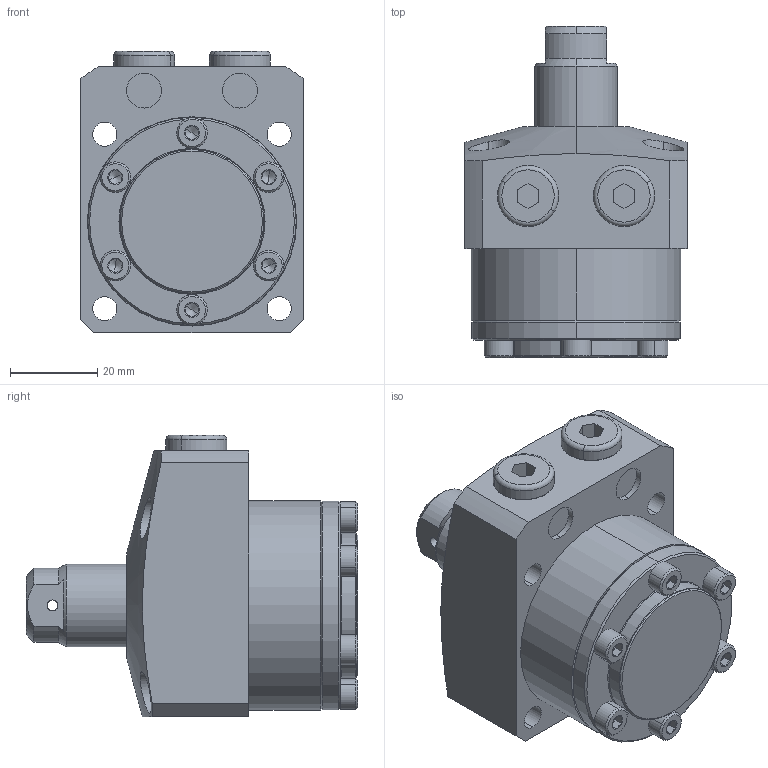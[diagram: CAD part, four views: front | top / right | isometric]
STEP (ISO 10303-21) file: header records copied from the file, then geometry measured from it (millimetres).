
FILE_DESCRIPTION (( 'STEP AP203' ), '1' );
FILE_NAME ('680480-CB-015.STEP', '2019-11-06T04:37:47', ( '微软用户' ), ( '微软中国' ), 'SwSTEP 2.0', 'SolidWorks 2014', '' );
FILE_SCHEMA (( 'CONFIG_CONTROL_DESIGN' ));
Length unit declared in the file: millimetre
Products named in the file (6): 葩璃 680480-CA-15-3^680480-CB-015; 葩璃 680480-CA-15-1^680480-CB-015; 葩璃 680480-CA-15-4^680480-CB-015; 葩璃 680480-CA-15-5^680480-CB-015; 680480-CB-015; 葩璃 680480-CA-15-2^680480-CB-015
Assembly tree (11 placements, depth 2):
  680480-CB-015
    葩璃 680480-CA-15-1^680480-CB-015
    葩璃 680480-CA-15-2^680480-CB-015
    葩璃 680480-CA-15-3^680480-CB-015
    葩璃 680480-CA-15-4^680480-CB-015  x6
    葩璃 680480-CA-15-5^680480-CB-015  x2
Bounding box: 51 x 76 x 64.5 mm (x, y, z)
Volume: 118558 mm3; surface area: 27720.4 mm2
Topology: 11 solids, 11 shells, 349 faces, 687 edges, 378 vertices
Faces by surface type: plane 140, cylinder 97, cone 96, torus 16
Entity records: 5887 total; most frequent: CARTESIAN_POINT 1284, DIRECTION 879, ORIENTED_EDGE 722, AXIS2_PLACEMENT_3D 368, EDGE_CURVE 361, VERTEX_POINT 221, EDGE_LOOP 210, CIRCLE 186
